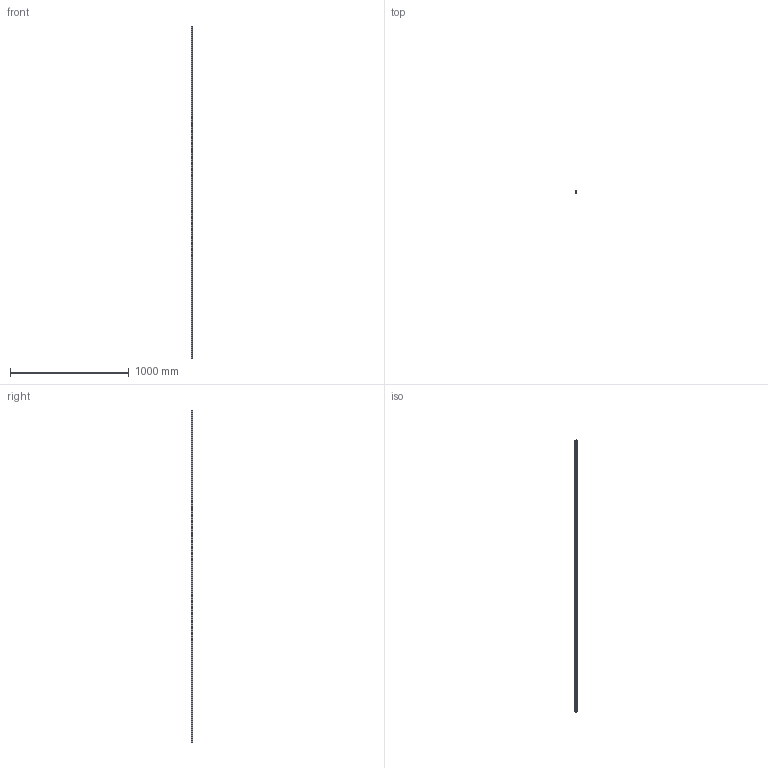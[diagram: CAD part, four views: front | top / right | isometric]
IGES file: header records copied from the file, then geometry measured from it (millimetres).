
Start section: SolidWorks IGES file using analytic representation for surfaces
Global section: file name: C:\Users\IanO\Desktop\L1016_v2\L1016.BL15_v2\L1016.BL15_v2_20190611_IGES\L1016.BL15-2800.igs; native system: SolidWorks 2017; preprocessor: SolidWorks 2017; author: IanO; date: 190612.123345; units: millimetre
Bounding box: 15 x 13 x 2800 mm (x, y, z)
Surface area: 171029.4 mm2 (no closed solid volume)
Topology: 0 solids, 0 shells, 261 faces, 6920 edges, 6920 vertices
Faces by surface type: revolution 192, bspline 69
